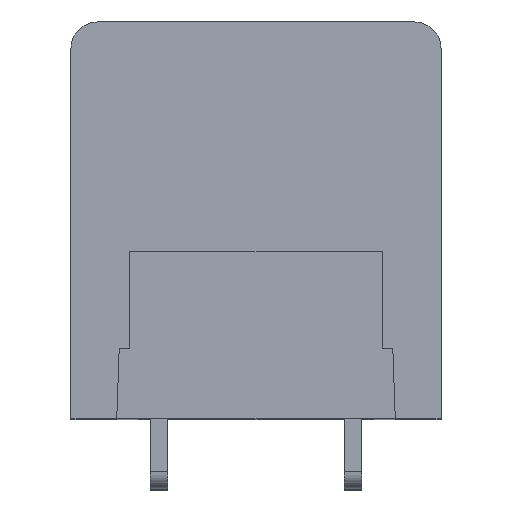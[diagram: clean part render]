
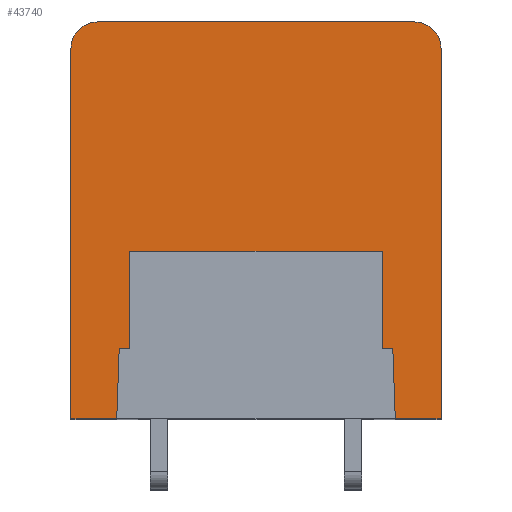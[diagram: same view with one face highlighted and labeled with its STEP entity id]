
A CAD part, top view. The second image highlights one B-rep face of the part: STEP entity #43740.
In plain terms, the highlighted planar face has unit normal (0, 0, 1).
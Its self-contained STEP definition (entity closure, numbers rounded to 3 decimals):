
#5652=CARTESIAN_POINT('',(1.5,21.,-0.6));
#5653=DIRECTION('',(0.,0.,1.));
#5654=DIRECTION('',(0.,1.,0.));
#5655=AXIS2_PLACEMENT_3D('',#5652,#5653,#5654);
#5657=DIRECTION('',(-1.,0.,0.));
#5658=VECTOR('',#5657,18.);
#5659=CARTESIAN_POINT('',(19.5,22.5,-0.6));
#5660=LINE('',#5659,#5658);
#5661=CARTESIAN_POINT('',(19.5,21.,-0.6));
#5662=DIRECTION('',(0.,0.,1.));
#5663=DIRECTION('',(1.,0.,0.));
#5664=AXIS2_PLACEMENT_3D('',#5661,#5662,#5663);
#5666=DIRECTION('',(0.,1.,0.));
#5667=VECTOR('',#5666,21.);
#5668=CARTESIAN_POINT('',(21.,0.,-0.6));
#5669=LINE('',#5668,#5667);
#5670=DIRECTION('',(1.,0.,0.));
#5671=VECTOR('',#5670,2.6);
#5672=CARTESIAN_POINT('',(18.4,0.,-0.6));
#5673=LINE('',#5672,#5671);
#5674=DIRECTION('',(0.035,-0.999,0.));
#5675=VECTOR('',#5674,4.002);
#5676=CARTESIAN_POINT('',(18.26,4.,-0.6));
#5677=LINE('',#5676,#5675);
#5678=DIRECTION('',(0.035,0.999,0.));
#5679=VECTOR('',#5678,4.002);
#5680=CARTESIAN_POINT('',(2.6,0.,-0.6));
#5681=LINE('',#5680,#5679);
#5682=DIRECTION('',(1.,0.,0.));
#5683=VECTOR('',#5682,2.6);
#5684=CARTESIAN_POINT('',(0.,0.,-0.6));
#5685=LINE('',#5684,#5683);
#5690=DIRECTION('',(0.,1.,0.));
#5691=VECTOR('',#5690,21.);
#5692=CARTESIAN_POINT('',(0.,0.,-0.6));
#5693=LINE('',#5692,#5691);
#5846=DIRECTION('',(-1.,0.,0.));
#5847=VECTOR('',#5846,14.3);
#5848=CARTESIAN_POINT('',(17.65,9.5,-0.6));
#5849=LINE('',#5848,#5847);
#5854=DIRECTION('',(0.,1.,0.));
#5855=VECTOR('',#5854,5.5);
#5856=CARTESIAN_POINT('',(17.65,4.,-0.6));
#5857=LINE('',#5856,#5855);
#5862=DIRECTION('',(-1.,0.,0.));
#5863=VECTOR('',#5862,0.61);
#5864=CARTESIAN_POINT('',(18.26,4.,-0.6));
#5865=LINE('',#5864,#5863);
#5878=DIRECTION('',(0.,-1.,0.));
#5879=VECTOR('',#5878,5.5);
#5880=CARTESIAN_POINT('',(3.35,9.5,-0.6));
#5881=LINE('',#5880,#5879);
#5894=DIRECTION('',(-1.,0.,0.));
#5895=VECTOR('',#5894,0.61);
#5896=CARTESIAN_POINT('',(3.35,4.,-0.6));
#5897=LINE('',#5896,#5895);
#31907=CARTESIAN_POINT('',(0.,0.,-0.6));
#31908=VERTEX_POINT('',#31907);
#31909=CARTESIAN_POINT('',(2.6,0.,-0.6));
#31910=VERTEX_POINT('',#31909);
#31915=CARTESIAN_POINT('',(18.4,0.,-0.6));
#31916=VERTEX_POINT('',#31915);
#31917=CARTESIAN_POINT('',(21.,0.,-0.6));
#31918=VERTEX_POINT('',#31917);
#32071=CARTESIAN_POINT('',(1.5,22.5,-0.6));
#32072=VERTEX_POINT('',#32071);
#32073=CARTESIAN_POINT('',(0.,21.,-0.6));
#32074=VERTEX_POINT('',#32073);
#32075=CARTESIAN_POINT('',(19.5,22.5,-0.6));
#32076=VERTEX_POINT('',#32075);
#32077=CARTESIAN_POINT('',(21.,21.,-0.6));
#32078=VERTEX_POINT('',#32077);
#32079=CARTESIAN_POINT('',(18.26,4.,-0.6));
#32080=VERTEX_POINT('',#32079);
#32081=CARTESIAN_POINT('',(17.65,4.,-0.6));
#32082=VERTEX_POINT('',#32081);
#32083=CARTESIAN_POINT('',(17.65,9.5,-0.6));
#32084=VERTEX_POINT('',#32083);
#32085=CARTESIAN_POINT('',(3.35,9.5,-0.6));
#32086=VERTEX_POINT('',#32085);
#32087=CARTESIAN_POINT('',(3.35,4.,-0.6));
#32088=VERTEX_POINT('',#32087);
#32089=CARTESIAN_POINT('',(2.74,4.,-0.6));
#32090=VERTEX_POINT('',#32089);
#43708=CARTESIAN_POINT('',(10.5,0.,-0.6));
#43709=DIRECTION('',(0.,0.,1.));
#43710=DIRECTION('',(1.,0.,0.));
#43711=AXIS2_PLACEMENT_3D('',#43708,#43709,#43710);
#43712=PLANE('',#43711);
#43714=ORIENTED_EDGE('',*,*,#43713,.T.);
#43716=ORIENTED_EDGE('',*,*,#43715,.F.);
#43718=ORIENTED_EDGE('',*,*,#43717,.F.);
#43720=ORIENTED_EDGE('',*,*,#43719,.F.);
#43721=ORIENTED_EDGE('',*,*,#43696,.F.);
#43722=ORIENTED_EDGE('',*,*,#37802,.F.);
#43724=ORIENTED_EDGE('',*,*,#43723,.F.);
#43726=ORIENTED_EDGE('',*,*,#43725,.T.);
#43728=ORIENTED_EDGE('',*,*,#43727,.T.);
#43730=ORIENTED_EDGE('',*,*,#43729,.T.);
#43732=ORIENTED_EDGE('',*,*,#43731,.T.);
#43734=ORIENTED_EDGE('',*,*,#43733,.T.);
#43736=ORIENTED_EDGE('',*,*,#43735,.F.);
#43737=ORIENTED_EDGE('',*,*,#37794,.F.);
#43738=EDGE_LOOP('',(#43714,#43716,#43718,#43720,#43721,#43722,#43724,#43726,
#43728,#43730,#43732,#43734,#43736,#43737));
#43739=FACE_OUTER_BOUND('',#43738,.F.);
#43740=ADVANCED_FACE('',(#43739),#43712,.T.);
#5656=CIRCLE('',#5655,1.5);
#5665=CIRCLE('',#5664,1.5);
#37794=EDGE_CURVE('',#31908,#31910,#5685,.T.);
#37802=EDGE_CURVE('',#31916,#31918,#5673,.T.);
#43696=EDGE_CURVE('',#31918,#32078,#5669,.T.);
#43713=EDGE_CURVE('',#31908,#32074,#5693,.T.);
#43715=EDGE_CURVE('',#32072,#32074,#5656,.T.);
#43717=EDGE_CURVE('',#32076,#32072,#5660,.T.);
#43719=EDGE_CURVE('',#32078,#32076,#5665,.T.);
#43723=EDGE_CURVE('',#32080,#31916,#5677,.T.);
#43725=EDGE_CURVE('',#32080,#32082,#5865,.T.);
#43727=EDGE_CURVE('',#32082,#32084,#5857,.T.);
#43729=EDGE_CURVE('',#32084,#32086,#5849,.T.);
#43731=EDGE_CURVE('',#32086,#32088,#5881,.T.);
#43733=EDGE_CURVE('',#32088,#32090,#5897,.T.);
#43735=EDGE_CURVE('',#31910,#32090,#5681,.T.);
